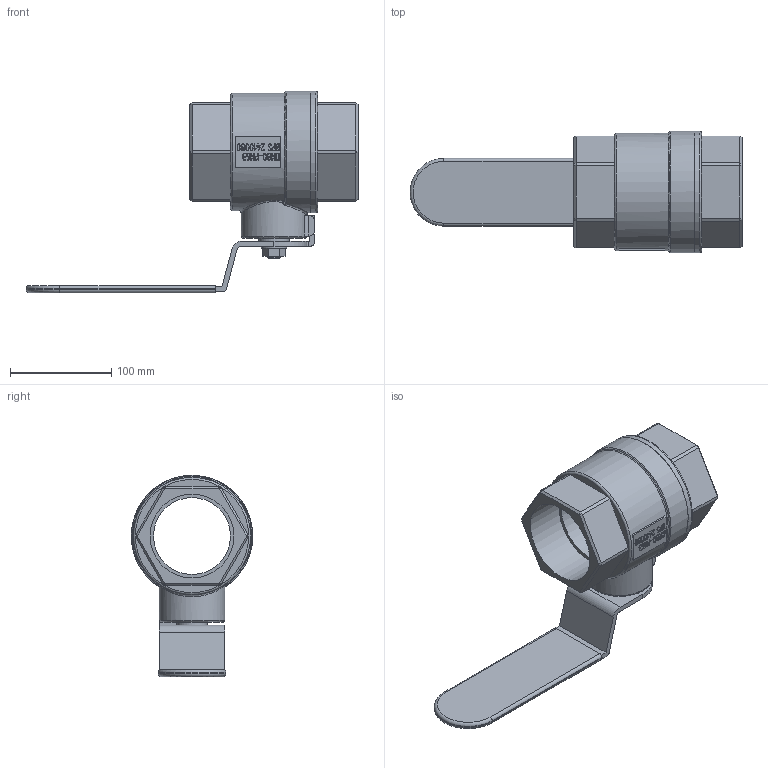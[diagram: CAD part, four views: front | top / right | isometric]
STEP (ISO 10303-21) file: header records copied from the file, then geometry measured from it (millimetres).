
FILE_DESCRIPTION( ( 'Unknown' ), '1' );
FILE_NAME( 'C:/Documents and Settings/Klaus/My Documents/Rootsi BPS 3D, Klaus/BPS 2410 ball valve, 2-pcs/STEP/BPS2410080 ball valve DN80.stp', 'Unknown', ( 'Unknown' ), ( 'Unknown' ), 'PSStep 10.1', 'Unknown', ' ' );
FILE_SCHEMA( ( 'AUTOMOTIVE_DESIGN { 1 0 10303 214 1 1 1 1 }' ) );
Length unit declared in the file: millimetre
Products named in the file (2): 1; 2
Bounding box: 328 x 120 x 199 mm (x, y, z)
Volume: 996924 mm3; surface area: 176656.4 mm2
Topology: 2 solids, 2 shells, 297 faces, 697 edges, 446 vertices
Faces by surface type: plane 201, extrusion 54, cylinder 26, bspline 8, torus 7, cone 1
Full cylindrical faces by diameter (mm): 12 x1, 25 x1, 30 x1, 65 x1, 76 x2, 82.835 x2, 116 x1, 120 x2
Entity records: 15000 total; most frequent: CARTESIAN_POINT 6458, ORIENTED_EDGE 1320, DIRECTION 988, EDGE_CURVE 660, VERTEX_POINT 438, VECTOR 374, EDGE_LOOP 372, B_SPLINE_CURVE_WITH_KNOTS 324
